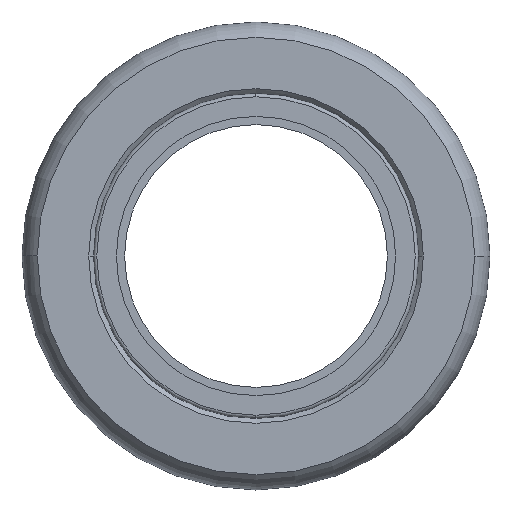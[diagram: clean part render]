
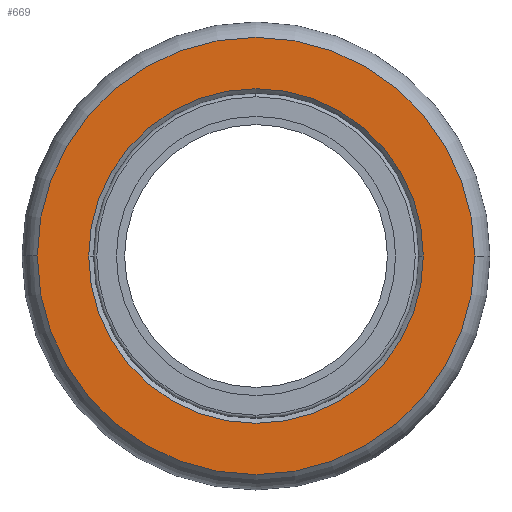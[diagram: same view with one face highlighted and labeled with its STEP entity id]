
A CAD part, left-side view. The second image highlights one B-rep face of the part: STEP entity #669.
In plain terms, the highlighted planar face has unit normal (-1, 0, 0).
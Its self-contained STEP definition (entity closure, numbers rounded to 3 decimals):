
#132=CARTESIAN_POINT('',(2.05,0.,0.));
#133=DIRECTION('',(-1.,0.,0.));
#134=DIRECTION('',(0.,-1.,0.));
#135=AXIS2_PLACEMENT_3D('',#132,#133,#134);
#147=CARTESIAN_POINT('',(2.05,0.,0.));
#148=DIRECTION('',(-1.,0.,0.));
#149=DIRECTION('',(0.,-1.,0.));
#150=AXIS2_PLACEMENT_3D('',#147,#148,#149);
#152=CARTESIAN_POINT('',(2.05,0.,0.));
#153=DIRECTION('',(-1.,0.,0.));
#154=DIRECTION('',(0.,1.,0.));
#155=AXIS2_PLACEMENT_3D('',#152,#153,#154);
#201=CARTESIAN_POINT('',(2.05,10.186,0.));
#209=CARTESIAN_POINT('',(2.05,-10.186,0.));
#211=CARTESIAN_POINT('',(2.05,0.,0.));
#212=DIRECTION('',(-1.,0.,0.));
#213=DIRECTION('',(0.,1.,0.));
#214=AXIS2_PLACEMENT_3D('',#211,#212,#213);
#350=CARTESIAN_POINT('',(2.05,-13.314,0.));
#351=CARTESIAN_POINT('',(2.05,13.314,0.));
#352=VERTEX_POINT('',#350);
#353=VERTEX_POINT('',#351);
#359=VERTEX_POINT('',#201);
#360=VERTEX_POINT('',#209);
#654=CARTESIAN_POINT('',(2.05,0.,0.));
#655=DIRECTION('',(1.,0.,0.));
#656=DIRECTION('',(0.,-1.,0.));
#657=AXIS2_PLACEMENT_3D('',#654,#655,#656);
#658=PLANE('',#657);
#659=ORIENTED_EDGE('',*,*,#532,.F.);
#661=ORIENTED_EDGE('',*,*,#660,.F.);
#662=EDGE_LOOP('',(#659,#661));
#663=FACE_OUTER_BOUND('',#662,.F.);
#664=ORIENTED_EDGE('',*,*,#636,.T.);
#666=ORIENTED_EDGE('',*,*,#665,.T.);
#667=EDGE_LOOP('',(#664,#666));
#668=FACE_BOUND('',#667,.F.);
#136=CIRCLE('',#135,13.314);
#151=CIRCLE('',#150,10.186);
#156=CIRCLE('',#155,13.314);
#215=CIRCLE('',#214,10.186);
#532=EDGE_CURVE('',#352,#353,#136,.T.);
#636=EDGE_CURVE('',#360,#359,#151,.T.);
#660=EDGE_CURVE('',#353,#352,#156,.T.);
#665=EDGE_CURVE('',#359,#360,#215,.T.);
#669=ADVANCED_FACE('',(#663,#668),#658,.F.);
